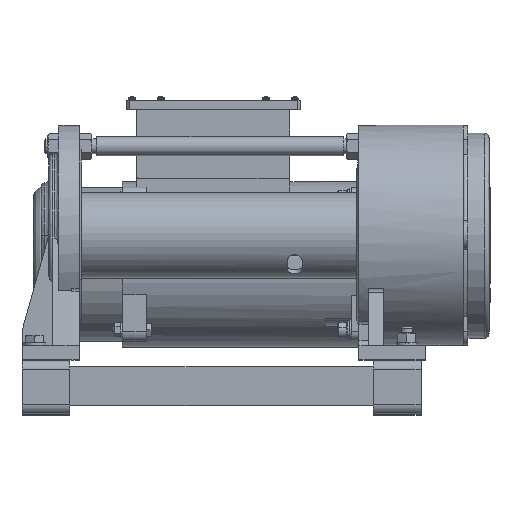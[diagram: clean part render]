
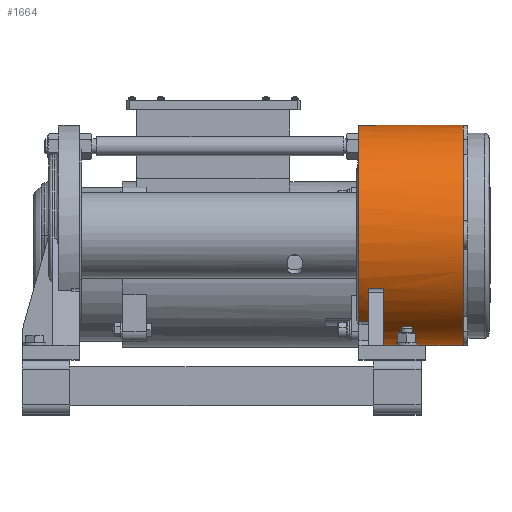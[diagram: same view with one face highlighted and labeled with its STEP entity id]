
A CAD part, top view. The second image highlights one B-rep face of the part: STEP entity #1664.
In plain terms, the highlighted cylindrical face has radius 115 mm (diameter 230 mm), a partial arc.
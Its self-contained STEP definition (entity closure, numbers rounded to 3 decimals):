
#1664=ADVANCED_FACE('',(#18378),#18377,.T.);
#18377=CYLINDRICAL_SURFACE('',#35265,115.);
#18378=FACE_OUTER_BOUND('',#35266,.T.);
#35262=CARTESIAN_POINT('',(1001.323,130.,1078.029));
#35263=DIRECTION('',(-1.,0.,0.));
#35264=DIRECTION('',(0.,-1.,0.));
#35265=AXIS2_PLACEMENT_3D('',#35262,#35263,#35264);
#35266=EDGE_LOOP('',(#48040,#48041,#48042,#48043,#48044,#48045,#48046,#48047,#48048,#48049,#48050,#48051,#48052,#48053));
#48040=ORIENTED_EDGE('',*,*,#56132,.T.);
#48041=ORIENTED_EDGE('',*,*,#51520,.F.);
#48042=ORIENTED_EDGE('',*,*,#54946,.F.);
#48043=ORIENTED_EDGE('',*,*,#54945,.F.);
#48044=ORIENTED_EDGE('',*,*,#51542,.F.);
#48045=ORIENTED_EDGE('',*,*,#54943,.F.);
#48046=ORIENTED_EDGE('',*,*,#51601,.F.);
#48047=ORIENTED_EDGE('',*,*,#51561,.F.);
#48048=ORIENTED_EDGE('',*,*,#53236,.T.);
#48049=ORIENTED_EDGE('',*,*,#51680,.F.);
#48050=ORIENTED_EDGE('',*,*,#51671,.T.);
#48051=ORIENTED_EDGE('',*,*,#51677,.T.);
#48052=ORIENTED_EDGE('',*,*,#51550,.T.);
#48053=ORIENTED_EDGE('',*,*,#53233,.F.);
#51520=EDGE_CURVE('',#58087,#58095,#58096,.T.);
#51542=EDGE_CURVE('',#58239,#58246,#58247,.T.);
#51550=EDGE_CURVE('',#58301,#58302,#58303,.T.);
#51561=EDGE_CURVE('',#58372,#58379,#58380,.T.);
#51601=EDGE_CURVE('',#58379,#58647,#58648,.T.);
#51671=EDGE_CURVE('',#59123,#59116,#59124,.T.);
#51677=EDGE_CURVE('',#59116,#58301,#59161,.T.);
#51680=EDGE_CURVE('',#59123,#59168,#59181,.T.);
#53233=EDGE_CURVE('',#58742,#58302,#69605,.T.);
#53236=EDGE_CURVE('',#58372,#59168,#69623,.T.);
#54943=EDGE_CURVE('',#58647,#58239,#81024,.T.);
#54945=EDGE_CURVE('',#58246,#80558,#81036,.T.);
#54946=EDGE_CURVE('',#80558,#58087,#81042,.T.);
#56132=EDGE_CURVE('',#58742,#58095,#88904,.T.);
#58087=VERTEX_POINT('',#95435);
#58095=VERTEX_POINT('',#95441);
#58096=CIRCLE('',#95445,115.);
#58239=VERTEX_POINT('',#95533);
#58246=VERTEX_POINT('',#95537);
#58247=CIRCLE('',#95541,115.);
#58301=VERTEX_POINT('',#95573);
#58302=VERTEX_POINT('',#95574);
#58303=CIRCLE('',#95578,115.);
#58372=VERTEX_POINT('',#95619);
#58379=VERTEX_POINT('',#95624);
#58380=LINE('',#95625,#95626);
#58647=VERTEX_POINT('',#95781);
#58648=CIRCLE('',#95785,115.);
#58742=VERTEX_POINT('',#95837);
#59116=VERTEX_POINT('',#96061);
#59123=VERTEX_POINT('',#96066);
#59124=CIRCLE('',#96070,115.);
#59161=LINE('',#96088,#96089);
#59168=VERTEX_POINT('',#96092);
#59181=LINE('',#96100,#96101);
#69605=LINE('',#103695,#103696);
#69623=CIRCLE('',#103708,115.);
#80558=VERTEX_POINT('',#110990);
#81024=LINE('',#111299,#111300);
#81036=CIRCLE('',#111308,115.);
#81042=CIRCLE('',#111312,115.);
#88904=LINE('',#117191,#117192);
#95435=CARTESIAN_POINT('',(1019.323,15.144,1083.779));
#95441=CARTESIAN_POINT('',(1019.323,15.,1078.029));
#95442=CARTESIAN_POINT('',(1019.323,130.,1078.029));
#95443=DIRECTION('',(1.,0.,0.));
#95444=DIRECTION('',(0.,-1.,0.));
#95445=AXIS2_PLACEMENT_3D('',#95442,#95443,#95444);
#95533=CARTESIAN_POINT('',(1019.323,245.,1078.029));
#95537=CARTESIAN_POINT('',(1019.323,244.856,1083.779));
#95538=CARTESIAN_POINT('',(1019.323,130.,1078.029));
#95539=DIRECTION('',(1.,0.,0.));
#95540=DIRECTION('',(0.,-1.,0.));
#95541=AXIS2_PLACEMENT_3D('',#95538,#95539,#95540);
#95573=CARTESIAN_POINT('',(934.323,40.228,1149.904));
#95574=CARTESIAN_POINT('',(934.323,15.,1078.029));
#95575=CARTESIAN_POINT('',(934.323,130.,1078.029));
#95576=DIRECTION('',(1.,0.,0.));
#95577=DIRECTION('',(0.,1.,0.));
#95578=AXIS2_PLACEMENT_3D('',#95575,#95576,#95577);
#95619=CARTESIAN_POINT('',(920.323,40.228,1149.904));
#95624=CARTESIAN_POINT('',(910.323,40.228,1149.904));
#95625=CARTESIAN_POINT('',(920.323,40.228,1149.904));
#95626=VECTOR('',#95627,10.);
#95627=DIRECTION('',(-1.,0.,0.));
#95781=CARTESIAN_POINT('',(910.323,245.,1078.029));
#95782=CARTESIAN_POINT('',(910.323,130.,1078.029));
#95783=DIRECTION('',(-1.,0.,0.));
#95784=DIRECTION('',(0.,1.,0.));
#95785=AXIS2_PLACEMENT_3D('',#95782,#95783,#95784);
#95837=CARTESIAN_POINT('',(980.323,15.,1078.029));
#96061=CARTESIAN_POINT('',(936.323,40.228,1149.904));
#96066=CARTESIAN_POINT('',(936.323,74.243,1178.608));
#96067=CARTESIAN_POINT('',(936.323,130.,1078.029));
#96068=DIRECTION('',(1.,0.,0.));
#96069=DIRECTION('',(0.,-1.,0.));
#96070=AXIS2_PLACEMENT_3D('',#96067,#96068,#96069);
#96088=CARTESIAN_POINT('',(936.323,40.228,1149.904));
#96089=VECTOR('',#96090,2.);
#96090=DIRECTION('',(-1.,0.,0.));
#96092=CARTESIAN_POINT('',(920.323,74.243,1178.608));
#96100=CARTESIAN_POINT('',(936.323,74.243,1178.608));
#96101=VECTOR('',#96102,16.);
#96102=DIRECTION('',(-1.,0.,0.));
#103695=CARTESIAN_POINT('',(980.323,15.,1078.029));
#103696=VECTOR('',#103697,46.);
#103697=DIRECTION('',(-1.,0.,0.));
#103705=CARTESIAN_POINT('',(920.323,130.,1078.029));
#103706=DIRECTION('',(-1.,0.,0.));
#103707=DIRECTION('',(0.,1.,0.));
#103708=AXIS2_PLACEMENT_3D('',#103705,#103706,#103707);
#110990=CARTESIAN_POINT('',(1019.323,130.,1193.029));
#111299=CARTESIAN_POINT('',(910.323,245.,1078.029));
#111300=VECTOR('',#111301,109.);
#111301=DIRECTION('',(1.,0.,0.));
#111305=CARTESIAN_POINT('',(1019.323,130.,1078.029));
#111306=DIRECTION('',(1.,0.,0.));
#111307=DIRECTION('',(0.,-1.,0.));
#111308=AXIS2_PLACEMENT_3D('',#111305,#111306,#111307);
#111309=CARTESIAN_POINT('',(1019.323,130.,1078.029));
#111310=DIRECTION('',(1.,0.,0.));
#111311=DIRECTION('',(0.,-1.,0.));
#111312=AXIS2_PLACEMENT_3D('',#111309,#111310,#111311);
#117191=CARTESIAN_POINT('',(980.323,15.,1078.029));
#117192=VECTOR('',#117193,39.);
#117193=DIRECTION('',(1.,0.,0.));
